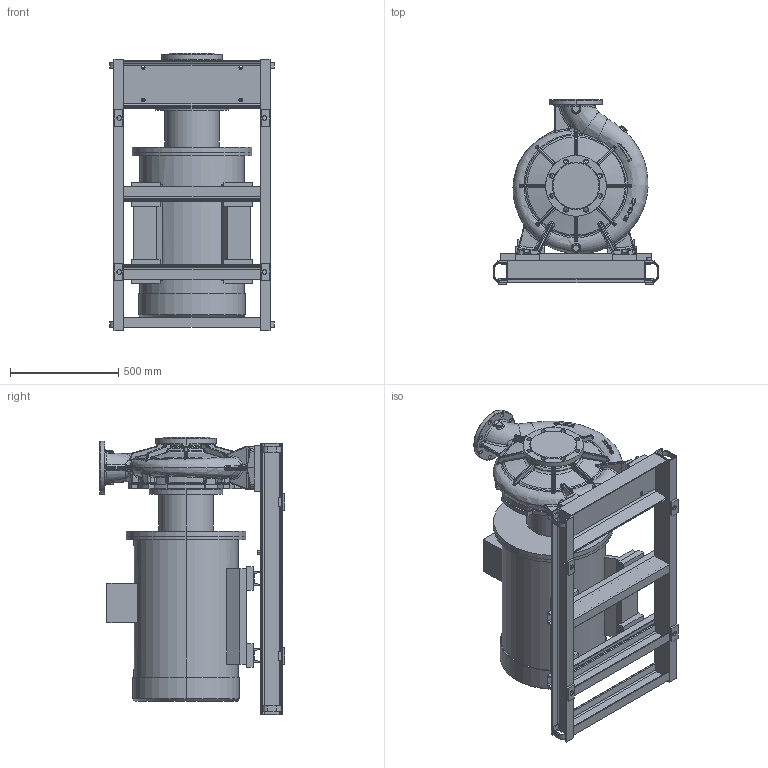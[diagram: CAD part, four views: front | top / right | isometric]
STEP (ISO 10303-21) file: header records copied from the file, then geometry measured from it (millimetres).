
FILE_DESCRIPTION (( 'STEP AP203' ), '1' );
FILE_NAME ('KRM150-125-400.STEP', '2026-09-08T09:46:09', ( '' ), ( '' ), 'SwSTEP 2.0', 'SolidWorks 2016', '' );
FILE_SCHEMA (( 'CONFIG_CONTROL_DESIGN' ));
Length unit declared in the file: millimetre
Products named in the file (1): KRM150-125-400
Bounding box: 759.61 x 855 x 1277.68 mm (x, y, z)
Volume: 224744336.1 mm3; surface area: 7456417.3 mm2
Topology: 31 solids, 31 shells, 1963 faces, 4902 edges, 2973 vertices
Faces by surface type: bspline 797, plane 508, cylinder 404, torus 130, cone 86, sphere 38
Entity records: 125800 total; most frequent: CARTESIAN_POINT 85052, ORIENTED_EDGE 9696, DIRECTION 6854, EDGE_CURVE 4848, VERTEX_POINT 2973, AXIS2_PLACEMENT_3D 2673, EDGE_LOOP 2071, ADVANCED_FACE 1963
